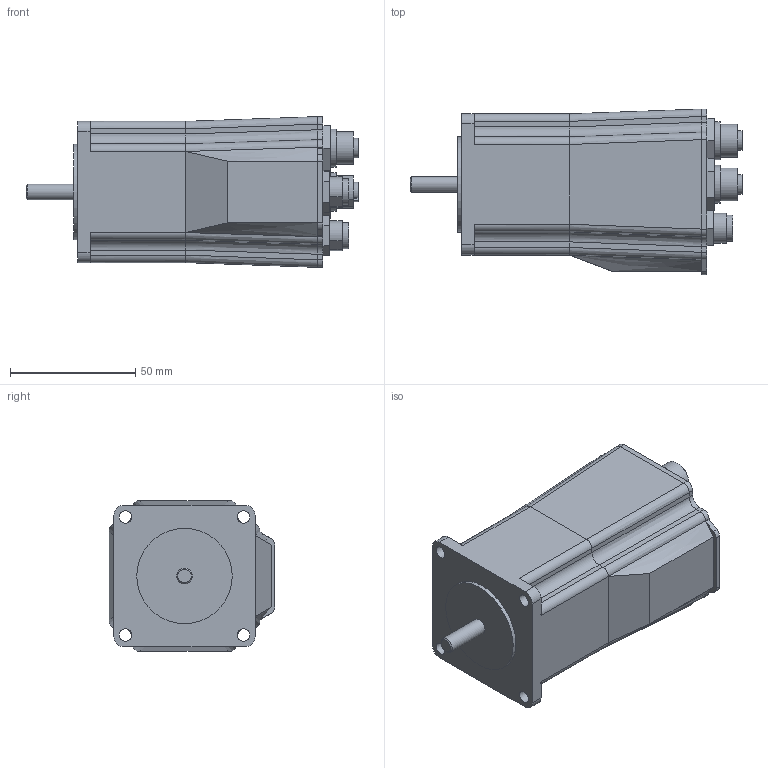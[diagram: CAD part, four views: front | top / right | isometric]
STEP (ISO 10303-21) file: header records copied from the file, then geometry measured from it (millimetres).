
FILE_DESCRIPTION( ( '' ), '1' );
FILE_NAME( 'T:/CAD/JVL/Opgave 2/LT0093-10GB.stp', '2007-10-09T08:32:38', ( 'Jørgen Vinther' ), ( 'www.stream-design.com' ), 'XStep 1.0', 'Solid edge V19', ' ' );
FILE_SCHEMA( ( 'CONFIG_CONTROL_DESIGN' ) );
Length unit declared in the file: millimetre
Products named in the file (1): 1
Bounding box: 132.6 x 66.2 x 60.2 mm (x, y, z)
Volume: 307781.8 mm3; surface area: 32093.1 mm2
Topology: 1 solids, 1 shells, 191 faces, 455 edges, 297 vertices
Faces by surface type: plane 115, cylinder 61, bspline 14, cone 1
Full cylindrical faces by diameter (mm): 1 x13, 5 x4, 6.35 x1, 8.5 x2, 10.4 x2, 15.2 x2, 38.1 x1
Entity records: 7076 total; most frequent: CARTESIAN_POINT 2843, ORIENTED_EDGE 840, DIRECTION 800, EDGE_CURVE 420, VERTEX_POINT 288, AXIS2_PLACEMENT_3D 277, EDGE_LOOP 256, LINE 246
